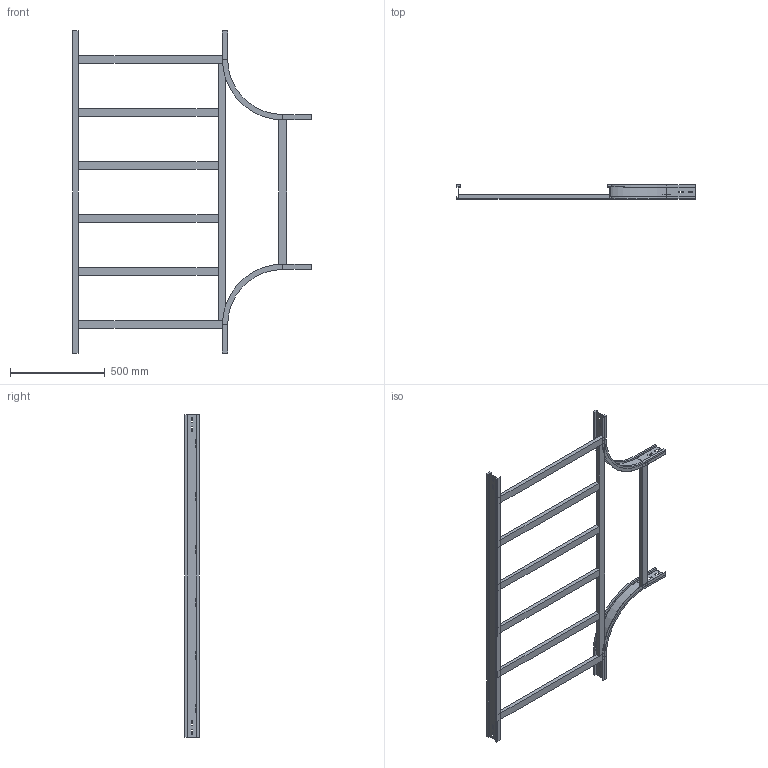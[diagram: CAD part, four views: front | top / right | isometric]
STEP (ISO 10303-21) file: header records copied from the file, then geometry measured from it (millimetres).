
FILE_DESCRIPTION (( 'STEP AP214' ), '1' );
FILE_NAME ('15S3C800.step', '2025-02-21T16:15:03', ( '' ), ( '' ), 'SwSTEP 2.0', 'SolidWorks 2023', '' );
FILE_SCHEMA (( 'AUTOMOTIVE_DESIGN' ));
Length unit declared in the file: millimetre
Products named in the file (6): TRAVERSINO_INTERMEDIO_R300+800; LONGH.RETT_H75_R300+800; LONGH.INTERNO 90°_H75_R300; TRAVERSINO_LONG._R300+800; 15S3C800; TRAVERSINO_800
Assembly tree (11 placements, depth 2):
  15S3C800
    LONGH.INTERNO 90°_H75_R300  x2
    LONGH.RETT_H75_R300+800
    TRAVERSINO_800  x3
    TRAVERSINO_LONG._R300+800
    TRAVERSINO_INTERMEDIO_R300+800  x4
Bounding box: 1259 x 75 x 1700 mm (x, y, z)
Volume: 7083845.8 mm3; surface area: 1633928.9 mm2
Topology: 11 solids, 11 shells, 186 faces, 444 edges, 280 vertices
Faces by surface type: plane 174, cylinder 12
Entity records: 3203 total; most frequent: CARTESIAN_POINT 528, ORIENTED_EDGE 504, DIRECTION 496, EDGE_CURVE 252, LINE 240, VECTOR 240, VERTEX_POINT 160, AXIS2_PLACEMENT_3D 128
